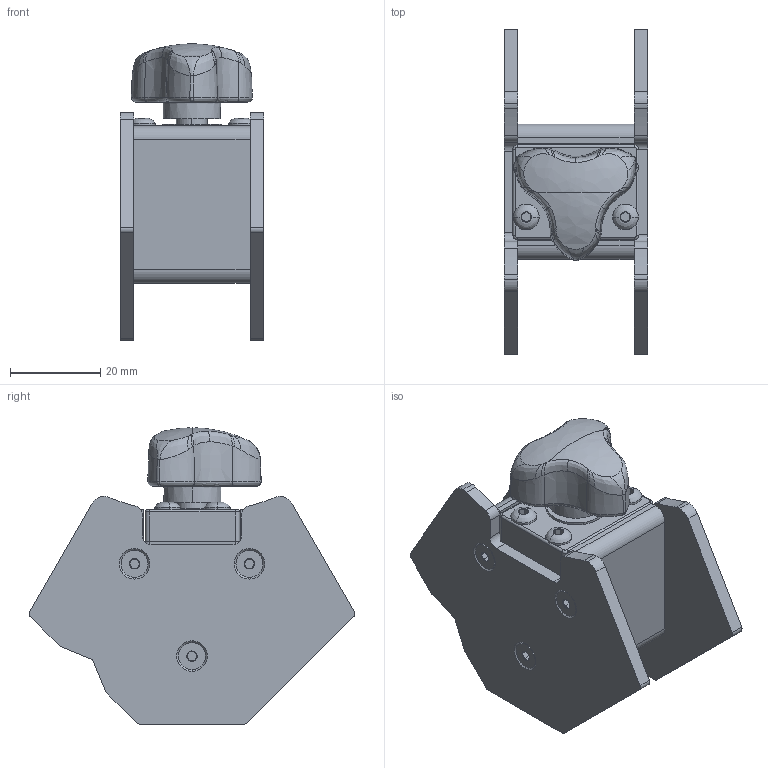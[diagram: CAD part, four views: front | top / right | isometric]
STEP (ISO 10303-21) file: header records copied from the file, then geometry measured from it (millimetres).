
FILE_DESCRIPTION (( 'STEP AP203' ), '1' );
FILE_NAME ('8100350_CFM.STEP', '2024-08-26T17:53:26', ( '' ), ( '' ), 'SwSTEP 2.0', 'SolidWorks 2022', '' );
FILE_SCHEMA (( 'CONFIG_CONTROL_DESIGN' ));
Products named in the file (1): 8100350_CFM
Bounding box: 31.93 x 72.3 x 65.77 mm (x, y, z)
Volume: 45409.2 mm3; surface area: 31204.4 mm2
Topology: 21 solids, 21 shells, 1803 faces, 4810 edges, 3090 vertices
Faces by surface type: cylinder 878, plane 376, bspline 337, cone 190, torus 14, sphere 8
Entity records: 95238 total; most frequent: CARTESIAN_POINT 57121, ORIENTED_EDGE 9552, DIRECTION 6027, EDGE_CURVE 4776, VERTEX_POINT 3090, AXIS2_PLACEMENT_3D 2087, EDGE_LOOP 1900, LINE 1853
